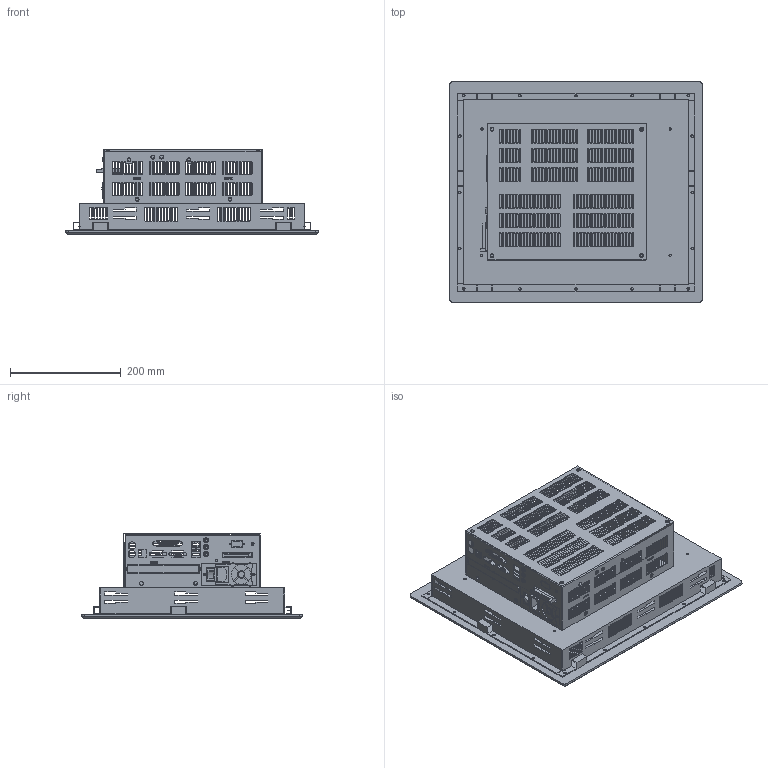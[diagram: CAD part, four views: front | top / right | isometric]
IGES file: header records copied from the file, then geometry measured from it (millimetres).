
Start section:  PTC IGES file: hp_18_slim.igs
Global section: file name: hp_18_slim.igs; native system: Pro/ENGINEER by Parametric Technology Corporation; preprocessor: 2000100; author: srollman; organization: Unknown; date: 050107.094953; units: inch
Bounding box: 456.67 x 398.78 x 152.58 mm (x, y, z)
Surface area: 710554.3 mm2 (no closed solid volume)
Topology: 0 solids, 0 shells, 149 faces, 3584 edges, 3581 vertices
Faces by surface type: bspline 115, revolution 34
